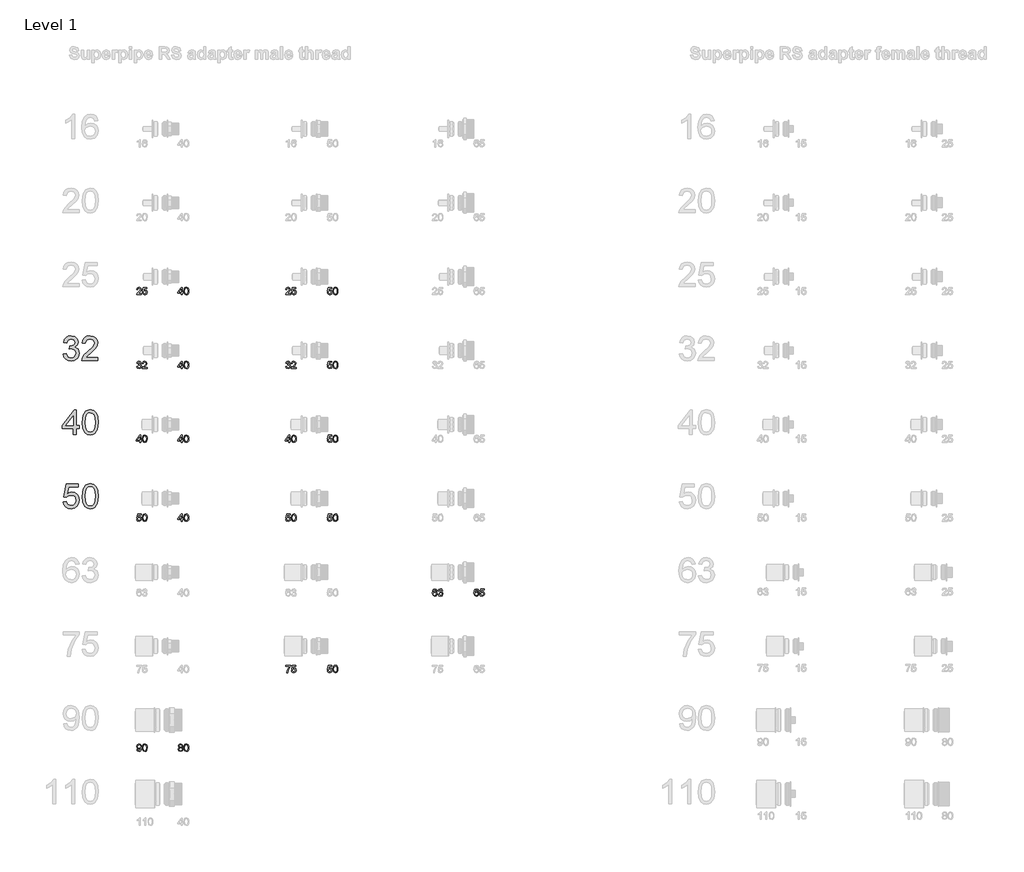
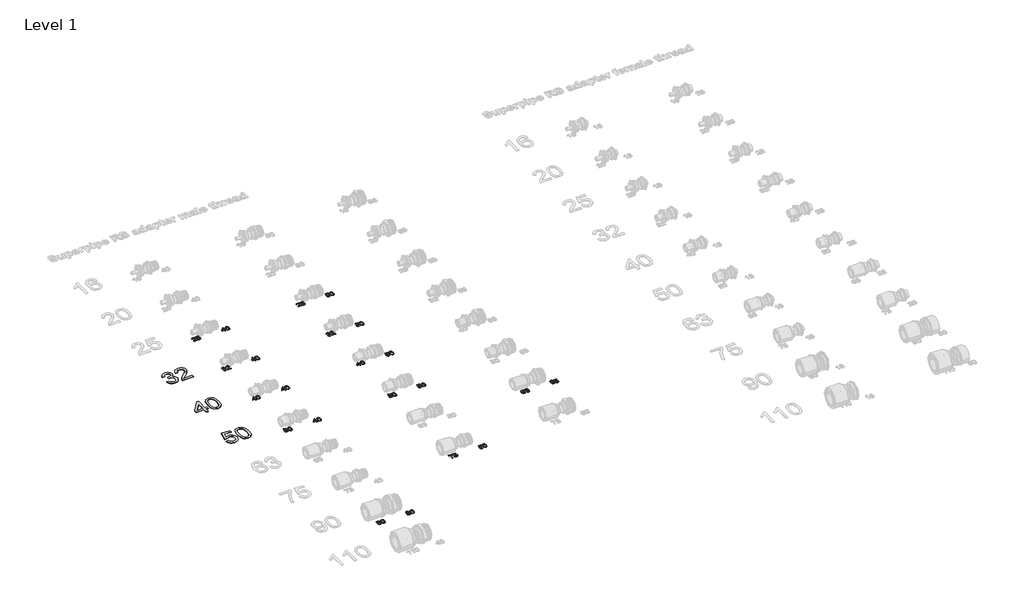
# One storey, part 34 of 58: 25 proxies.
"""IFC4 building model written with IfcOpenShell, lengths in millimetres."""

from ifc_helpers import new_model, si_unit, frame, origin, place, context, project, spatial, polyline, outline, extrude, element, save

model = new_model("IFC4")

# Units and contexts
model_context = context("Model", 3, world=origin())
ifc_project = project(units=[si_unit("LENGTHUNIT", "METRE", prefix="MILLI")], contexts=[model_context])

# Site, building, storey
site = spatial("IfcSite", under=ifc_project)
building = spatial("IfcBuilding", under=site)
storey = spatial("IfcBuildingStorey", under=building, Name="Level 1", Elevation=27.3876384)

# Proxies
placement = place(None, origin())
element("IfcBuildingElementProxy", 1, Name="100mm Arial", ObjectType="100mm Arial", at=placement, inside=storey, context=model_context, shape_type="SweptSolid", body=[
    extrude(outline(polyline([(28784.4814773, 17732.8797554), (28797.0385161, 17734.4493852), (28803.9669603, 17721.2301588), (28816.9286693, 17717.1834569), (28825.537108, 17718.5752771), (28832.1835093, 17722.7507378), (28837.8488921, 17736.5340498), (28832.2325603, 17749.5202843), (28817.9587389, 17754.6583695), (28809.1540964, 17753.2849434), (28810.552048, 17765.8419821), (28812.5631363, 17765.6948293), (28826.8124322, 17769.3000729), (28831.55811, 17773.8740723), (28833.1400025, 17780.3855837), (28828.5537403, 17790.2080329), (28816.7324655, 17794.0953193), (28804.764038, 17790.1712447), (28798.6081459, 17778.3990209), (28786.0511071, 17779.9686507), (28789.7483212, 17791.2442339), (28796.3272775, 17799.6626002), (28805.3281237, 17804.9049186), (28816.2910072, 17806.6523581), (28831.4354826, 17803.2065301), (28842.0304841, 17793.788751), (28845.6970413, 17781.1213477), (28842.2144251, 17769.5453275), (28831.9137292, 17761.2311944), (28845.5989394, 17752.6472812), (28850.4059308, 17736.3133206), (28848.0024351, 17724.0751129), (28840.791948, 17713.8479935), (28829.9087723, 17706.931812), (28816.4872109, 17704.6264181), (28804.347105, 17706.5945868), (28794.4633421, 17712.4990928), (28787.5900802, 17721.5305958), (28784.4814773, 17732.8797554)])), frame((0.0, 0.0, 27.3876384), z_axis=(0.0, 0.0, 1.0), x_axis=(1.0, 0.0, 0.0)), (0.0, 0.0, 1.0), 2.0),
    extrude(outline(polyline([(28925.7481635, 17718.7530867), (28925.7481635, 17706.196048), (28859.8237099, 17706.196048), (28861.1726106, 17714.8535376), (28868.8000306, 17728.1831285), (28884.5208545, 17742.7389928), (28906.2013668, 17763.6592156), (28911.6214948, 17777.8839861), (28906.5079351, 17789.3986925), (28893.1538187, 17794.0953193), (28879.2356165, 17789.5090571), (28873.9503785, 17776.829391), (28861.3933398, 17778.3990209), (28864.4375633, 17790.5452581), (28871.0195853, 17799.4173455), (28880.7960493, 17804.843605), (28893.4235988, 17806.6523581), (28906.1431188, 17804.6412699), (28915.9011887, 17798.6080052), (28922.1091974, 17789.5948963), (28924.1785336, 17778.6442756), (28921.9467162, 17766.7371616), (28914.5277626, 17754.4253775), (28896.538333, 17737.2207629), (28882.0928334, 17725.1419707), (28876.4274506, 17718.7530867), (28925.7481635, 17718.7530867)])), frame((0.0, 0.0, 27.3876384), z_axis=(0.0, 0.0, 1.0), x_axis=(1.0, 0.0, 0.0)), (0.0, 0.0, 1.0), 2.0),
])
element("IfcBuildingElementProxy", 2, Name="100mm Arial", ObjectType="100mm Arial", at=placement, inside=storey, context=model_context, shape_type="SweptSolid", body=[
    extrude(outline(polyline([(28825.2918533, 17406.196048), (28825.2918533, 17429.7404957), (28779.7725878, 17429.7404957), (28779.7725878, 17442.2975344), (28828.431113, 17505.0827283), (28837.8488921, 17505.0827283), (28837.8488921, 17442.2975344), (28850.4059308, 17442.2975344), (28850.4059308, 17429.7404957), (28837.8488921, 17429.7404957), (28837.8488921, 17406.196048), (28825.2918533, 17406.196048)]), holes=[polyline([(28825.2918533, 17442.2975344), (28825.2918533, 17481.0968222), (28795.2236316, 17442.2975344), (28825.2918533, 17442.2975344)])]), frame((0.0, 0.0, 27.3876384), z_axis=(0.0, 0.0, 1.0), x_axis=(1.0, 0.0, 0.0)), (0.0, 0.0, 1.0), 2.0),
    extrude(outline(polyline([(28861.3933398, 17455.6148627), (28865.0844224, 17484.5181247), (28876.0473059, 17501.1831791), (28894.3555665, 17506.6523581), (28909.0217954, 17503.4149966), (28919.150813, 17494.0830566), (28925.0369249, 17479.220624), (28927.3177933, 17455.6148627), (28923.6634988, 17426.8342279), (28912.7374036, 17410.1323853), (28904.5060439, 17406.0029099), (28894.3555665, 17404.6264181), (28881.3080184, 17407.0176511), (28871.39973, 17414.19135), (28863.8949373, 17431.1813668), (28861.3933398, 17455.6148627)]), holes=[polyline([(28873.9503785, 17455.6393881), (28875.4219065, 17435.8871907), (28879.8364905, 17424.4552577), (28886.4093154, 17419.0014071), (28894.3555665, 17417.1834569), (28902.3018176, 17419.0075385), (28908.8746426, 17424.4797831), (28913.2892265, 17435.9178475), (28914.7607545, 17455.6393881), (28913.3382775, 17474.9470615), (28909.0708463, 17486.4678993), (28902.5102841, 17492.1884643), (28894.2084137, 17494.0953193), (28886.3480018, 17492.4153249), (28880.0326942, 17487.3753416), (28875.4709574, 17475.1371339), (28873.9503785, 17455.6393881)])]), frame((0.0, 0.0, 27.3876384), z_axis=(0.0, 0.0, 1.0), x_axis=(1.0, 0.0, 0.0)), (0.0, 0.0, 1.0), 2.0),
])
element("IfcBuildingElementProxy", 3, Name="100mm Arial", ObjectType="100mm Arial", at=placement, inside=storey, context=model_context, shape_type="SweptSolid", body=[
    extrude(outline(polyline([(28784.4814773, 17132.8797554), (28797.0385161, 17134.4493852), (28803.3660864, 17121.5122017), (28816.4872109, 17117.1834569), (28825.488057, 17118.6887074), (28832.2325603, 17123.2044589), (28836.4448091, 17130.2095452), (28837.8488921, 17139.1828002), (28832.5881795, 17154.0942837), (28825.981632, 17158.196168), (28816.6834146, 17159.5634627), (28805.6592175, 17157.3806962), (28798.6081459, 17151.7153135), (28786.0511071, 17153.2849434), (28797.0385161, 17205.0827283), (28845.6970413, 17205.0827283), (28845.6970413, 17192.5256895), (28807.1920591, 17192.5256895), (28801.820982, 17164.8609635), (28810.7911713, 17170.305617), (28820.1905563, 17172.1205015), (28831.9229263, 17169.87029), (28841.6626021, 17163.1196554), (28848.2200987, 17152.8312222), (28850.4059308, 17139.9676151), (28848.4377622, 17127.4105764), (28842.5332561, 17116.6684221), (28831.2270162, 17107.6369191), (28816.43816, 17104.6264181), (28804.1049161, 17106.5608643), (28794.2794011, 17112.3642028), (28787.5440949, 17121.3619832), (28784.4814773, 17132.8797554)])), frame((0.0, 0.0, 27.3876384), z_axis=(0.0, 0.0, 1.0), x_axis=(1.0, 0.0, 0.0)), (0.0, 0.0, 1.0), 2.0),
    extrude(outline(polyline([(28861.3933398, 17155.6148627), (28865.0844224, 17184.5181247), (28876.0473059, 17201.1831791), (28894.3555665, 17206.6523581), (28909.0217954, 17203.4149966), (28919.150813, 17194.0830566), (28925.0369249, 17179.220624), (28927.3177933, 17155.6148627), (28923.6634988, 17126.8342279), (28912.7374036, 17110.1323853), (28904.5060439, 17106.0029099), (28894.3555665, 17104.6264181), (28881.3080184, 17107.0176511), (28871.39973, 17114.19135), (28863.8949373, 17131.1813668), (28861.3933398, 17155.6148627)]), holes=[polyline([(28873.9503785, 17155.6393881), (28875.4219065, 17135.8871907), (28879.8364905, 17124.4552577), (28886.4093154, 17119.0014071), (28894.3555665, 17117.1834569), (28902.3018176, 17119.0075385), (28908.8746426, 17124.4797831), (28913.2892265, 17135.9178475), (28914.7607545, 17155.6393881), (28913.3382775, 17174.9470615), (28909.0708463, 17186.4678993), (28902.5102841, 17192.1884643), (28894.2084137, 17194.0953193), (28886.3480018, 17192.4153249), (28880.0326942, 17187.3753416), (28875.4709574, 17175.1371339), (28873.9503785, 17155.6393881)])]), frame((0.0, 0.0, 27.3876384), z_axis=(0.0, 0.0, 1.0), x_axis=(1.0, 0.0, 0.0)), (0.0, 0.0, 1.0), 2.0),
])
element("IfcBuildingElementProxy", 4, Name="30mm Arial", ObjectType="30mm Arial", at=placement, inside=storey, context=model_context, shape_type="SweptSolid", body=[
    extrude(outline(polyline([(29101.8418771, 17977.3459656), (29101.8418771, 17973.5788539), (29082.0645411, 17973.5788539), (29082.4692113, 17976.1761008), (29084.7574373, 17980.1749781), (29089.4736845, 17984.5417374), (29095.9778381, 17990.8178042), (29097.6038765, 17995.0852354), (29096.0698086, 17998.5396473), (29092.0635737, 17999.9486353), (29087.8881131, 17998.5727567), (29086.3025417, 17994.7688569), (29082.53543, 17995.2397458), (29085.4233037, 18001.5452432), (29092.1445077, 18003.715747), (29098.8877847, 18001.3024411), (29101.3709882, 17995.3133222), (29100.7014429, 17991.741188), (29098.4757569, 17988.0476528), (29093.078928, 17982.8862684), (29088.7452781, 17979.2626308), (29087.0456633, 17977.3459656), (29101.8418771, 17977.3459656)])), frame((0.0, 0.0, 27.3876384), z_axis=(0.0, 0.0, 1.0), x_axis=(1.0, 0.0, 0.0)), (0.0, 0.0, 1.0), 2.0),
    extrude(outline(polyline([(29105.6089888, 17981.5839661), (29109.3761004, 17982.0548551), (29111.2743715, 17978.1737001), (29115.2107088, 17976.8750766), (29119.9343137, 17978.6813772), (29121.6192132, 17983.4748796), (29120.0409994, 17987.9483247), (29115.26957, 17989.5890784), (29111.9623108, 17988.9342484), (29109.8469893, 17987.2346336), (29106.0798777, 17987.7055225), (29109.3761004, 18003.244858), (29123.973658, 18003.244858), (29123.973658, 17999.4777464), (29112.4221633, 17999.4777464), (29110.8108402, 17991.1783286), (29116.3217125, 17993.35619), (29122.7633262, 17990.6559361), (29125.3863248, 17983.7103241), (29123.0245224, 17976.7205662), (29115.1959936, 17973.107965), (29108.5483659, 17975.4293004), (29105.6089888, 17981.5839661)])), frame((0.0, 0.0, 27.3876384), z_axis=(0.0, 0.0, 1.0), x_axis=(1.0, 0.0, 0.0)), (0.0, 0.0, 1.0), 2.0),
])
element("IfcBuildingElementProxy", 5, Name="30mm Arial", ObjectType="30mm Arial", at=placement, inside=storey, context=model_context, shape_type="SweptSolid", body=[
    extrude(outline(polyline([(29263.5285428, 17973.5788539), (29263.5285428, 17980.6421882), (29249.8727632, 17980.6421882), (29249.8727632, 17984.4092999), (29264.4703207, 18003.244858), (29267.2956545, 18003.244858), (29267.2956545, 17984.4092999), (29271.0627661, 17984.4092999), (29271.0627661, 17980.6421882), (29267.2956545, 17980.6421882), (29267.2956545, 17973.5788539), (29263.5285428, 17973.5788539)]), holes=[polyline([(29263.5285428, 17984.4092999), (29263.5285428, 17996.0490862), (29254.5080763, 17984.4092999), (29263.5285428, 17984.4092999)])]), frame((0.0, 0.0, 27.3876384), z_axis=(0.0, 0.0, 1.0), x_axis=(1.0, 0.0, 0.0)), (0.0, 0.0, 1.0), 2.0),
    extrude(outline(polyline([(29274.3589888, 17988.4044983), (29275.4663136, 17997.075477), (29278.7551786, 18002.0749933), (29284.2476568, 18003.715747), (29288.6475255, 18002.7445385), (29291.6862307, 17999.9449565), (29293.4520643, 17995.4862267), (29294.1363248, 17988.4044983), (29293.0400365, 17979.7703079), (29289.7622079, 17974.7597551), (29284.2476568, 17973.107965), (29277.3609058, 17975.9774445), (29274.3589888, 17988.4044983)]), holes=[polyline([(29278.1261004, 17988.411856), (29279.891934, 17979.0566168), (29284.2476568, 17976.8750766), (29288.6033796, 17979.0639745), (29290.3692132, 17988.411856), (29288.6622407, 17997.6604093), (29284.203511, 17999.9486353), (29279.9507951, 17997.932642), (29278.1261004, 17988.411856)])]), frame((0.0, 0.0, 27.3876384), z_axis=(0.0, 0.0, 1.0), x_axis=(1.0, 0.0, 0.0)), (0.0, 0.0, 1.0), 2.0),
])
element("IfcBuildingElementProxy", 6, Name="30mm Arial", ObjectType="30mm Arial", at=placement, inside=storey, context=model_context, shape_type="SweptSolid", body=[
    extrude(outline(polyline([(29082.53543, 17681.5839661), (29086.3025417, 17682.0548551), (29088.3810749, 17678.0890872), (29092.2695876, 17676.8750766), (29096.8460396, 17678.5452609), (29098.5456545, 17682.6802545), (29096.8607549, 17686.5761248), (29092.5786085, 17688.1175504), (29089.9372158, 17687.7055225), (29090.3566012, 17691.4726342), (29095.2347165, 17692.5100614), (29097.1329876, 17695.8357146), (29095.7571089, 17698.7824494), (29092.2107265, 17699.9486353), (29088.6201982, 17698.771413), (29086.7734306, 17695.2397458), (29083.006319, 17695.7106348), (29086.0891701, 17701.6188196), (29092.078289, 17703.715747), (29096.6216316, 17702.6819986), (29099.8001321, 17699.8566648), (29100.9000992, 17696.0564438), (29099.8553144, 17692.5836378), (29096.7651056, 17690.0893979), (29100.8706687, 17687.5142239), (29102.3127661, 17682.6140357), (29099.4285712, 17675.8744376), (29092.1371501, 17673.107965), (29085.5299895, 17675.4697674), (29082.53543, 17681.5839661)])), frame((0.0, 0.0, 27.3876384), z_axis=(0.0, 0.0, 1.0), x_axis=(1.0, 0.0, 0.0)), (0.0, 0.0, 1.0), 2.0),
    extrude(outline(polyline([(29124.9154359, 17677.3459656), (29124.9154359, 17673.5788539), (29105.1380998, 17673.5788539), (29105.54277, 17676.1761008), (29107.830996, 17680.1749781), (29112.5472432, 17684.5417374), (29119.0513969, 17690.8178042), (29120.6774353, 17695.0852354), (29119.1433674, 17698.5396473), (29115.1371324, 17699.9486353), (29110.9616718, 17698.5727567), (29109.3761004, 17694.7688569), (29105.6089888, 17695.2397458), (29108.4968624, 17701.5452432), (29115.2180665, 17703.715747), (29121.9613434, 17701.3024411), (29124.4445469, 17695.3133222), (29123.7750017, 17691.741188), (29121.5493156, 17688.0476528), (29116.1524867, 17682.8862684), (29111.8188368, 17679.2626308), (29110.119222, 17677.3459656), (29124.9154359, 17677.3459656)])), frame((0.0, 0.0, 27.3876384), z_axis=(0.0, 0.0, 1.0), x_axis=(1.0, 0.0, 0.0)), (0.0, 0.0, 1.0), 2.0),
])
element("IfcBuildingElementProxy", 7, Name="30mm Arial", ObjectType="30mm Arial", at=placement, inside=storey, context=model_context, shape_type="SweptSolid", body=[
    extrude(outline(polyline([(29263.5285428, 17673.5788539), (29263.5285428, 17680.6421882), (29249.8727632, 17680.6421882), (29249.8727632, 17684.4092999), (29264.4703207, 17703.244858), (29267.2956545, 17703.244858), (29267.2956545, 17684.4092999), (29271.0627661, 17684.4092999), (29271.0627661, 17680.6421882), (29267.2956545, 17680.6421882), (29267.2956545, 17673.5788539), (29263.5285428, 17673.5788539)]), holes=[polyline([(29263.5285428, 17684.4092999), (29263.5285428, 17696.0490862), (29254.5080763, 17684.4092999), (29263.5285428, 17684.4092999)])]), frame((0.0, 0.0, 27.3876384), z_axis=(0.0, 0.0, 1.0), x_axis=(1.0, 0.0, 0.0)), (0.0, 0.0, 1.0), 2.0),
    extrude(outline(polyline([(29274.3589888, 17688.4044983), (29275.4663136, 17697.075477), (29278.7551786, 17702.0749933), (29284.2476568, 17703.715747), (29288.6475255, 17702.7445385), (29291.6862307, 17699.9449565), (29293.4520643, 17695.4862267), (29294.1363248, 17688.4044983), (29293.0400365, 17679.7703079), (29289.7622079, 17674.7597551), (29284.2476568, 17673.107965), (29277.3609058, 17675.9774445), (29274.3589888, 17688.4044983)]), holes=[polyline([(29278.1261004, 17688.411856), (29279.891934, 17679.0566168), (29284.2476568, 17676.8750766), (29288.6033796, 17679.0639745), (29290.3692132, 17688.411856), (29288.6622407, 17697.6604093), (29284.203511, 17699.9486353), (29279.9507951, 17697.932642), (29278.1261004, 17688.411856)])]), frame((0.0, 0.0, 27.3876384), z_axis=(0.0, 0.0, 1.0), x_axis=(1.0, 0.0, 0.0)), (0.0, 0.0, 1.0), 2.0),
])
element("IfcBuildingElementProxy", 8, Name="30mm Arial", ObjectType="30mm Arial", at=placement, inside=storey, context=model_context, shape_type="SweptSolid", body=[
    extrude(outline(polyline([(29094.7785428, 17373.5788539), (29094.7785428, 17380.6421882), (29081.1227632, 17380.6421882), (29081.1227632, 17384.4092999), (29095.7203207, 17403.244858), (29098.5456545, 17403.244858), (29098.5456545, 17384.4092999), (29102.3127661, 17384.4092999), (29102.3127661, 17380.6421882), (29098.5456545, 17380.6421882), (29098.5456545, 17373.5788539), (29094.7785428, 17373.5788539)]), holes=[polyline([(29094.7785428, 17384.4092999), (29094.7785428, 17396.0490862), (29085.7580763, 17384.4092999), (29094.7785428, 17384.4092999)])]), frame((0.0, 0.0, 27.3876384), z_axis=(0.0, 0.0, 1.0), x_axis=(1.0, 0.0, 0.0)), (0.0, 0.0, 1.0), 2.0),
    extrude(outline(polyline([(29105.6089888, 17388.4044983), (29106.7163136, 17397.075477), (29110.0051786, 17402.0749933), (29115.4976568, 17403.715747), (29119.8975255, 17402.7445385), (29122.9362307, 17399.9449565), (29124.7020643, 17395.4862267), (29125.3863248, 17388.4044983), (29124.2900365, 17379.7703079), (29121.0122079, 17374.7597551), (29115.4976568, 17373.107965), (29108.6109058, 17375.9774445), (29105.6089888, 17388.4044983)]), holes=[polyline([(29109.3761004, 17388.411856), (29111.141934, 17379.0566168), (29115.4976568, 17376.8750766), (29119.8533796, 17379.0639745), (29121.6192132, 17388.411856), (29119.9122407, 17397.6604093), (29115.453511, 17399.9486353), (29111.2007951, 17397.932642), (29109.3761004, 17388.411856)])]), frame((0.0, 0.0, 27.3876384), z_axis=(0.0, 0.0, 1.0), x_axis=(1.0, 0.0, 0.0)), (0.0, 0.0, 1.0), 2.0),
])
element("IfcBuildingElementProxy", 9, Name="30mm Arial", ObjectType="30mm Arial", at=placement, inside=storey, context=model_context, shape_type="SweptSolid", body=[
    extrude(outline(polyline([(29263.5285428, 17373.5788539), (29263.5285428, 17380.6421882), (29249.8727632, 17380.6421882), (29249.8727632, 17384.4092999), (29264.4703207, 17403.244858), (29267.2956545, 17403.244858), (29267.2956545, 17384.4092999), (29271.0627661, 17384.4092999), (29271.0627661, 17380.6421882), (29267.2956545, 17380.6421882), (29267.2956545, 17373.5788539), (29263.5285428, 17373.5788539)]), holes=[polyline([(29263.5285428, 17384.4092999), (29263.5285428, 17396.0490862), (29254.5080763, 17384.4092999), (29263.5285428, 17384.4092999)])]), frame((0.0, 0.0, 27.3876384), z_axis=(0.0, 0.0, 1.0), x_axis=(1.0, 0.0, 0.0)), (0.0, 0.0, 1.0), 2.0),
    extrude(outline(polyline([(29274.3589888, 17388.4044983), (29275.4663136, 17397.075477), (29278.7551786, 17402.0749933), (29284.2476568, 17403.715747), (29288.6475255, 17402.7445385), (29291.6862307, 17399.9449565), (29293.4520643, 17395.4862267), (29294.1363248, 17388.4044983), (29293.0400365, 17379.7703079), (29289.7622079, 17374.7597551), (29284.2476568, 17373.107965), (29277.3609058, 17375.9774445), (29274.3589888, 17388.4044983)]), holes=[polyline([(29278.1261004, 17388.411856), (29279.891934, 17379.0566168), (29284.2476568, 17376.8750766), (29288.6033796, 17379.0639745), (29290.3692132, 17388.411856), (29288.6622407, 17397.6604093), (29284.203511, 17399.9486353), (29279.9507951, 17397.932642), (29278.1261004, 17388.411856)])]), frame((0.0, 0.0, 27.3876384), z_axis=(0.0, 0.0, 1.0), x_axis=(1.0, 0.0, 0.0)), (0.0, 0.0, 1.0), 2.0),
])
element("IfcBuildingElementProxy", 10, Name="30mm Arial", ObjectType="30mm Arial", at=placement, inside=storey, context=model_context, shape_type="SweptSolid", body=[
    extrude(outline(polyline([(29082.53543, 17061.5839661), (29086.3025417, 17062.0548551), (29088.2008128, 17058.1737001), (29092.1371501, 17056.8750766), (29096.8607549, 17058.6813772), (29098.5456545, 17063.4748796), (29096.9674407, 17067.9483247), (29092.1960112, 17069.5890784), (29088.8887521, 17068.9342484), (29086.7734306, 17067.2346336), (29083.006319, 17067.7055225), (29086.3025417, 17083.244858), (29100.9000992, 17083.244858), (29100.9000992, 17079.4777464), (29089.3486046, 17079.4777464), (29087.7372814, 17071.1783286), (29093.2481537, 17073.35619), (29099.6897675, 17070.6559361), (29102.3127661, 17063.7103241), (29099.9509637, 17056.7205662), (29092.1224348, 17053.107965), (29085.4748072, 17055.4293004), (29082.53543, 17061.5839661)])), frame((0.0, 0.0, 27.3876384), z_axis=(0.0, 0.0, 1.0), x_axis=(1.0, 0.0, 0.0)), (0.0, 0.0, 1.0), 2.0),
    extrude(outline(polyline([(29105.6089888, 17068.4044983), (29106.7163136, 17077.075477), (29110.0051786, 17082.0749933), (29115.4976568, 17083.715747), (29119.8975255, 17082.7445385), (29122.9362307, 17079.9449565), (29124.7020643, 17075.4862267), (29125.3863248, 17068.4044983), (29124.2900365, 17059.7703079), (29121.0122079, 17054.7597551), (29115.4976568, 17053.107965), (29108.6109058, 17055.9774445), (29105.6089888, 17068.4044983)]), holes=[polyline([(29109.3761004, 17068.411856), (29111.141934, 17059.0566168), (29115.4976568, 17056.8750766), (29119.8533796, 17059.0639745), (29121.6192132, 17068.411856), (29119.9122407, 17077.6604093), (29115.453511, 17079.9486353), (29111.2007951, 17077.932642), (29109.3761004, 17068.411856)])]), frame((0.0, 0.0, 27.3876384), z_axis=(0.0, 0.0, 1.0), x_axis=(1.0, 0.0, 0.0)), (0.0, 0.0, 1.0), 2.0),
])
element("IfcBuildingElementProxy", 11, Name="30mm Arial", ObjectType="30mm Arial", at=placement, inside=storey, context=model_context, shape_type="SweptSolid", body=[
    extrude(outline(polyline([(29263.5285428, 17053.5788539), (29263.5285428, 17060.6421882), (29249.8727632, 17060.6421882), (29249.8727632, 17064.4092999), (29264.4703207, 17083.244858), (29267.2956545, 17083.244858), (29267.2956545, 17064.4092999), (29271.0627661, 17064.4092999), (29271.0627661, 17060.6421882), (29267.2956545, 17060.6421882), (29267.2956545, 17053.5788539), (29263.5285428, 17053.5788539)]), holes=[polyline([(29263.5285428, 17064.4092999), (29263.5285428, 17076.0490862), (29254.5080763, 17064.4092999), (29263.5285428, 17064.4092999)])]), frame((0.0, 0.0, 27.3876384), z_axis=(0.0, 0.0, 1.0), x_axis=(1.0, 0.0, 0.0)), (0.0, 0.0, 1.0), 2.0),
    extrude(outline(polyline([(29274.3589888, 17068.4044983), (29275.4663136, 17077.075477), (29278.7551786, 17082.0749933), (29284.2476568, 17083.715747), (29288.6475255, 17082.7445385), (29291.6862307, 17079.9449565), (29293.4520643, 17075.4862267), (29294.1363248, 17068.4044983), (29293.0400365, 17059.7703079), (29289.7622079, 17054.7597551), (29284.2476568, 17053.107965), (29277.3609058, 17055.9774445), (29274.3589888, 17068.4044983)]), holes=[polyline([(29278.1261004, 17068.411856), (29279.891934, 17059.0566168), (29284.2476568, 17056.8750766), (29288.6033796, 17059.0639745), (29290.3692132, 17068.411856), (29288.6622407, 17077.6604093), (29284.203511, 17079.9486353), (29279.9507951, 17077.932642), (29278.1261004, 17068.411856)])]), frame((0.0, 0.0, 27.3876384), z_axis=(0.0, 0.0, 1.0), x_axis=(1.0, 0.0, 0.0)), (0.0, 0.0, 1.0), 2.0),
])
element("IfcBuildingElementProxy", 12, Name="30mm Arial", ObjectType="30mm Arial", at=placement, inside=storey, context=model_context, shape_type="SweptSolid", body=[
    extrude(outline(polyline([(29706.8418771, 17977.3459656), (29706.8418771, 17973.5788539), (29687.0645411, 17973.5788539), (29687.4692113, 17976.1761008), (29689.7574373, 17980.1749781), (29694.4736845, 17984.5417374), (29700.9778381, 17990.8178042), (29702.6038765, 17995.0852354), (29701.0698086, 17998.5396473), (29697.0635737, 17999.9486353), (29692.8881131, 17998.5727567), (29691.3025417, 17994.7688569), (29687.53543, 17995.2397458), (29690.4233037, 18001.5452432), (29697.1445077, 18003.715747), (29703.8877847, 18001.3024411), (29706.3709882, 17995.3133222), (29705.7014429, 17991.741188), (29703.4757569, 17988.0476528), (29698.078928, 17982.8862684), (29693.7452781, 17979.2626308), (29692.0456633, 17977.3459656), (29706.8418771, 17977.3459656)])), frame((0.0, 0.0, 27.3876384), z_axis=(0.0, 0.0, 1.0), x_axis=(1.0, 0.0, 0.0)), (0.0, 0.0, 1.0), 2.0),
    extrude(outline(polyline([(29710.6089888, 17981.5839661), (29714.3761004, 17982.0548551), (29716.2743715, 17978.1737001), (29720.2107088, 17976.8750766), (29724.9343137, 17978.6813772), (29726.6192132, 17983.4748796), (29725.0409994, 17987.9483247), (29720.26957, 17989.5890784), (29716.9623108, 17988.9342484), (29714.8469893, 17987.2346336), (29711.0798777, 17987.7055225), (29714.3761004, 18003.244858), (29728.973658, 18003.244858), (29728.973658, 17999.4777464), (29717.4221633, 17999.4777464), (29715.8108402, 17991.1783286), (29721.3217125, 17993.35619), (29727.7633262, 17990.6559361), (29730.3863248, 17983.7103241), (29728.0245224, 17976.7205662), (29720.1959936, 17973.107965), (29713.5483659, 17975.4293004), (29710.6089888, 17981.5839661)])), frame((0.0, 0.0, 27.3876384), z_axis=(0.0, 0.0, 1.0), x_axis=(1.0, 0.0, 0.0)), (0.0, 0.0, 1.0), 2.0),
])
element("IfcBuildingElementProxy", 13, Name="30mm Arial", ObjectType="30mm Arial", at=placement, inside=storey, context=model_context, shape_type="SweptSolid", body=[
    extrude(outline(polyline([(29856.28543, 17981.5839661), (29860.0525417, 17982.0548551), (29861.9508128, 17978.1737001), (29865.8871501, 17976.8750766), (29870.6107549, 17978.6813772), (29872.2956545, 17983.4748796), (29870.7174407, 17987.9483247), (29865.9460112, 17989.5890784), (29862.6387521, 17988.9342484), (29860.5234306, 17987.2346336), (29856.756319, 17987.7055225), (29860.0525417, 18003.244858), (29874.6500992, 18003.244858), (29874.6500992, 17999.4777464), (29863.0986046, 17999.4777464), (29861.4872814, 17991.1783286), (29866.9981537, 17993.35619), (29873.4397675, 17990.6559361), (29876.0627661, 17983.7103241), (29873.7009637, 17976.7205662), (29865.8724348, 17973.107965), (29859.2248072, 17975.4293004), (29856.28543, 17981.5839661)])), frame((0.0, 0.0, 27.3876384), z_axis=(0.0, 0.0, 1.0), x_axis=(1.0, 0.0, 0.0)), (0.0, 0.0, 1.0), 2.0),
    extrude(outline(polyline([(29879.3589888, 17988.4044983), (29880.4663136, 17997.075477), (29883.7551786, 18002.0749933), (29889.2476568, 18003.715747), (29893.6475255, 18002.7445385), (29896.6862307, 17999.9449565), (29898.4520643, 17995.4862267), (29899.1363248, 17988.4044983), (29898.0400365, 17979.7703079), (29894.7622079, 17974.7597551), (29889.2476568, 17973.107965), (29882.3609058, 17975.9774445), (29879.3589888, 17988.4044983)]), holes=[polyline([(29883.1261004, 17988.411856), (29884.891934, 17979.0566168), (29889.2476568, 17976.8750766), (29893.6033796, 17979.0639745), (29895.3692132, 17988.411856), (29893.6622407, 17997.6604093), (29889.203511, 17999.9486353), (29884.9507951, 17997.932642), (29883.1261004, 17988.411856)])]), frame((0.0, 0.0, 27.3876384), z_axis=(0.0, 0.0, 1.0), x_axis=(1.0, 0.0, 0.0)), (0.0, 0.0, 1.0), 2.0),
])
element("IfcBuildingElementProxy", 14, Name="30mm Arial", ObjectType="30mm Arial", at=placement, inside=storey, context=model_context, shape_type="SweptSolid", body=[
    extrude(outline(polyline([(29687.53543, 17681.5839661), (29691.3025417, 17682.0548551), (29693.3810749, 17678.0890872), (29697.2695876, 17676.8750766), (29701.8460396, 17678.5452609), (29703.5456545, 17682.6802545), (29701.8607549, 17686.5761248), (29697.5786085, 17688.1175504), (29694.9372158, 17687.7055225), (29695.3566012, 17691.4726342), (29700.2347165, 17692.5100614), (29702.1329876, 17695.8357146), (29700.7571089, 17698.7824494), (29697.2107265, 17699.9486353), (29693.6201982, 17698.771413), (29691.7734306, 17695.2397458), (29688.006319, 17695.7106348), (29691.0891701, 17701.6188196), (29697.078289, 17703.715747), (29701.6216316, 17702.6819986), (29704.8001321, 17699.8566648), (29705.9000992, 17696.0564438), (29704.8553144, 17692.5836378), (29701.7651056, 17690.0893979), (29705.8706687, 17687.5142239), (29707.3127661, 17682.6140357), (29704.4285712, 17675.8744376), (29697.1371501, 17673.107965), (29690.5299895, 17675.4697674), (29687.53543, 17681.5839661)])), frame((0.0, 0.0, 27.3876384), z_axis=(0.0, 0.0, 1.0), x_axis=(1.0, 0.0, 0.0)), (0.0, 0.0, 1.0), 2.0),
    extrude(outline(polyline([(29729.9154359, 17677.3459656), (29729.9154359, 17673.5788539), (29710.1380998, 17673.5788539), (29710.54277, 17676.1761008), (29712.830996, 17680.1749781), (29717.5472432, 17684.5417374), (29724.0513969, 17690.8178042), (29725.6774353, 17695.0852354), (29724.1433674, 17698.5396473), (29720.1371324, 17699.9486353), (29715.9616718, 17698.5727567), (29714.3761004, 17694.7688569), (29710.6089888, 17695.2397458), (29713.4968624, 17701.5452432), (29720.2180665, 17703.715747), (29726.9613434, 17701.3024411), (29729.4445469, 17695.3133222), (29728.7750017, 17691.741188), (29726.5493156, 17688.0476528), (29721.1524867, 17682.8862684), (29716.8188368, 17679.2626308), (29715.119222, 17677.3459656), (29729.9154359, 17677.3459656)])), frame((0.0, 0.0, 27.3876384), z_axis=(0.0, 0.0, 1.0), x_axis=(1.0, 0.0, 0.0)), (0.0, 0.0, 1.0), 2.0),
])
element("IfcBuildingElementProxy", 15, Name="30mm Arial", ObjectType="30mm Arial", at=placement, inside=storey, context=model_context, shape_type="SweptSolid", body=[
    extrude(outline(polyline([(29856.28543, 17681.5839661), (29860.0525417, 17682.0548551), (29861.9508128, 17678.1737001), (29865.8871501, 17676.8750766), (29870.6107549, 17678.6813772), (29872.2956545, 17683.4748796), (29870.7174407, 17687.9483247), (29865.9460112, 17689.5890784), (29862.6387521, 17688.9342484), (29860.5234306, 17687.2346336), (29856.756319, 17687.7055225), (29860.0525417, 17703.244858), (29874.6500992, 17703.244858), (29874.6500992, 17699.4777464), (29863.0986046, 17699.4777464), (29861.4872814, 17691.1783286), (29866.9981537, 17693.35619), (29873.4397675, 17690.6559361), (29876.0627661, 17683.7103241), (29873.7009637, 17676.7205662), (29865.8724348, 17673.107965), (29859.2248072, 17675.4293004), (29856.28543, 17681.5839661)])), frame((0.0, 0.0, 27.3876384), z_axis=(0.0, 0.0, 1.0), x_axis=(1.0, 0.0, 0.0)), (0.0, 0.0, 1.0), 2.0),
    extrude(outline(polyline([(29879.3589888, 17688.4044983), (29880.4663136, 17697.075477), (29883.7551786, 17702.0749933), (29889.2476568, 17703.715747), (29893.6475255, 17702.7445385), (29896.6862307, 17699.9449565), (29898.4520643, 17695.4862267), (29899.1363248, 17688.4044983), (29898.0400365, 17679.7703079), (29894.7622079, 17674.7597551), (29889.2476568, 17673.107965), (29882.3609058, 17675.9774445), (29879.3589888, 17688.4044983)]), holes=[polyline([(29883.1261004, 17688.411856), (29884.891934, 17679.0566168), (29889.2476568, 17676.8750766), (29893.6033796, 17679.0639745), (29895.3692132, 17688.411856), (29893.6622407, 17697.6604093), (29889.203511, 17699.9486353), (29884.9507951, 17697.932642), (29883.1261004, 17688.411856)])]), frame((0.0, 0.0, 27.3876384), z_axis=(0.0, 0.0, 1.0), x_axis=(1.0, 0.0, 0.0)), (0.0, 0.0, 1.0), 2.0),
])
element("IfcBuildingElementProxy", 16, Name="30mm Arial", ObjectType="30mm Arial", at=placement, inside=storey, context=model_context, shape_type="SweptSolid", body=[
    extrude(outline(polyline([(29699.7785428, 17373.5788539), (29699.7785428, 17380.6421882), (29686.1227632, 17380.6421882), (29686.1227632, 17384.4092999), (29700.7203207, 17403.244858), (29703.5456545, 17403.244858), (29703.5456545, 17384.4092999), (29707.3127661, 17384.4092999), (29707.3127661, 17380.6421882), (29703.5456545, 17380.6421882), (29703.5456545, 17373.5788539), (29699.7785428, 17373.5788539)]), holes=[polyline([(29699.7785428, 17384.4092999), (29699.7785428, 17396.0490862), (29690.7580763, 17384.4092999), (29699.7785428, 17384.4092999)])]), frame((0.0, 0.0, 27.3876384), z_axis=(0.0, 0.0, 1.0), x_axis=(1.0, 0.0, 0.0)), (0.0, 0.0, 1.0), 2.0),
    extrude(outline(polyline([(29710.6089888, 17388.4044983), (29711.7163136, 17397.075477), (29715.0051786, 17402.0749933), (29720.4976568, 17403.715747), (29724.8975255, 17402.7445385), (29727.9362307, 17399.9449565), (29729.7020643, 17395.4862267), (29730.3863248, 17388.4044983), (29729.2900365, 17379.7703079), (29726.0122079, 17374.7597551), (29720.4976568, 17373.107965), (29713.6109058, 17375.9774445), (29710.6089888, 17388.4044983)]), holes=[polyline([(29714.3761004, 17388.411856), (29716.141934, 17379.0566168), (29720.4976568, 17376.8750766), (29724.8533796, 17379.0639745), (29726.6192132, 17388.411856), (29724.9122407, 17397.6604093), (29720.453511, 17399.9486353), (29716.2007951, 17397.932642), (29714.3761004, 17388.411856)])]), frame((0.0, 0.0, 27.3876384), z_axis=(0.0, 0.0, 1.0), x_axis=(1.0, 0.0, 0.0)), (0.0, 0.0, 1.0), 2.0),
])
element("IfcBuildingElementProxy", 17, Name="30mm Arial", ObjectType="30mm Arial", at=placement, inside=storey, context=model_context, shape_type="SweptSolid", body=[
    extrude(outline(polyline([(29856.28543, 17381.5839661), (29860.0525417, 17382.0548551), (29861.9508128, 17378.1737001), (29865.8871501, 17376.8750766), (29870.6107549, 17378.6813772), (29872.2956545, 17383.4748796), (29870.7174407, 17387.9483247), (29865.9460112, 17389.5890784), (29862.6387521, 17388.9342484), (29860.5234306, 17387.2346336), (29856.756319, 17387.7055225), (29860.0525417, 17403.244858), (29874.6500992, 17403.244858), (29874.6500992, 17399.4777464), (29863.0986046, 17399.4777464), (29861.4872814, 17391.1783286), (29866.9981537, 17393.35619), (29873.4397675, 17390.6559361), (29876.0627661, 17383.7103241), (29873.7009637, 17376.7205662), (29865.8724348, 17373.107965), (29859.2248072, 17375.4293004), (29856.28543, 17381.5839661)])), frame((0.0, 0.0, 27.3876384), z_axis=(0.0, 0.0, 1.0), x_axis=(1.0, 0.0, 0.0)), (0.0, 0.0, 1.0), 2.0),
    extrude(outline(polyline([(29879.3589888, 17388.4044983), (29880.4663136, 17397.075477), (29883.7551786, 17402.0749933), (29889.2476568, 17403.715747), (29893.6475255, 17402.7445385), (29896.6862307, 17399.9449565), (29898.4520643, 17395.4862267), (29899.1363248, 17388.4044983), (29898.0400365, 17379.7703079), (29894.7622079, 17374.7597551), (29889.2476568, 17373.107965), (29882.3609058, 17375.9774445), (29879.3589888, 17388.4044983)]), holes=[polyline([(29883.1261004, 17388.411856), (29884.891934, 17379.0566168), (29889.2476568, 17376.8750766), (29893.6033796, 17379.0639745), (29895.3692132, 17388.411856), (29893.6622407, 17397.6604093), (29889.203511, 17399.9486353), (29884.9507951, 17397.932642), (29883.1261004, 17388.411856)])]), frame((0.0, 0.0, 27.3876384), z_axis=(0.0, 0.0, 1.0), x_axis=(1.0, 0.0, 0.0)), (0.0, 0.0, 1.0), 2.0),
])
element("IfcBuildingElementProxy", 18, Name="30mm Arial", ObjectType="30mm Arial", at=placement, inside=storey, context=model_context, shape_type="SweptSolid", body=[
    extrude(outline(polyline([(29687.53543, 17061.5839661), (29691.3025417, 17062.0548551), (29693.2008128, 17058.1737001), (29697.1371501, 17056.8750766), (29701.8607549, 17058.6813772), (29703.5456545, 17063.4748796), (29701.9674407, 17067.9483247), (29697.1960112, 17069.5890784), (29693.8887521, 17068.9342484), (29691.7734306, 17067.2346336), (29688.006319, 17067.7055225), (29691.3025417, 17083.244858), (29705.9000992, 17083.244858), (29705.9000992, 17079.4777464), (29694.3486046, 17079.4777464), (29692.7372814, 17071.1783286), (29698.2481537, 17073.35619), (29704.6897675, 17070.6559361), (29707.3127661, 17063.7103241), (29704.9509637, 17056.7205662), (29697.1224348, 17053.107965), (29690.4748072, 17055.4293004), (29687.53543, 17061.5839661)])), frame((0.0, 0.0, 27.3876384), z_axis=(0.0, 0.0, 1.0), x_axis=(1.0, 0.0, 0.0)), (0.0, 0.0, 1.0), 2.0),
    extrude(outline(polyline([(29710.6089888, 17068.4044983), (29711.7163136, 17077.075477), (29715.0051786, 17082.0749933), (29720.4976568, 17083.715747), (29724.8975255, 17082.7445385), (29727.9362307, 17079.9449565), (29729.7020643, 17075.4862267), (29730.3863248, 17068.4044983), (29729.2900365, 17059.7703079), (29726.0122079, 17054.7597551), (29720.4976568, 17053.107965), (29713.6109058, 17055.9774445), (29710.6089888, 17068.4044983)]), holes=[polyline([(29714.3761004, 17068.411856), (29716.141934, 17059.0566168), (29720.4976568, 17056.8750766), (29724.8533796, 17059.0639745), (29726.6192132, 17068.411856), (29724.9122407, 17077.6604093), (29720.453511, 17079.9486353), (29716.2007951, 17077.932642), (29714.3761004, 17068.411856)])]), frame((0.0, 0.0, 27.3876384), z_axis=(0.0, 0.0, 1.0), x_axis=(1.0, 0.0, 0.0)), (0.0, 0.0, 1.0), 2.0),
])
element("IfcBuildingElementProxy", 19, Name="30mm Arial", ObjectType="30mm Arial", at=placement, inside=storey, context=model_context, shape_type="SweptSolid", body=[
    extrude(outline(polyline([(29856.28543, 17061.5839661), (29860.0525417, 17062.0548551), (29861.9508128, 17058.1737001), (29865.8871501, 17056.8750766), (29870.6107549, 17058.6813772), (29872.2956545, 17063.4748796), (29870.7174407, 17067.9483247), (29865.9460112, 17069.5890784), (29862.6387521, 17068.9342484), (29860.5234306, 17067.2346336), (29856.756319, 17067.7055225), (29860.0525417, 17083.244858), (29874.6500992, 17083.244858), (29874.6500992, 17079.4777464), (29863.0986046, 17079.4777464), (29861.4872814, 17071.1783286), (29866.9981537, 17073.35619), (29873.4397675, 17070.6559361), (29876.0627661, 17063.7103241), (29873.7009637, 17056.7205662), (29865.8724348, 17053.107965), (29859.2248072, 17055.4293004), (29856.28543, 17061.5839661)])), frame((0.0, 0.0, 27.3876384), z_axis=(0.0, 0.0, 1.0), x_axis=(1.0, 0.0, 0.0)), (0.0, 0.0, 1.0), 2.0),
    extrude(outline(polyline([(29879.3589888, 17068.4044983), (29880.4663136, 17077.075477), (29883.7551786, 17082.0749933), (29889.2476568, 17083.715747), (29893.6475255, 17082.7445385), (29896.6862307, 17079.9449565), (29898.4520643, 17075.4862267), (29899.1363248, 17068.4044983), (29898.0400365, 17059.7703079), (29894.7622079, 17054.7597551), (29889.2476568, 17053.107965), (29882.3609058, 17055.9774445), (29879.3589888, 17068.4044983)]), holes=[polyline([(29883.1261004, 17068.411856), (29884.891934, 17059.0566168), (29889.2476568, 17056.8750766), (29893.6033796, 17059.0639745), (29895.3692132, 17068.411856), (29893.6622407, 17077.6604093), (29889.203511, 17079.9486353), (29884.9507951, 17077.932642), (29883.1261004, 17068.411856)])]), frame((0.0, 0.0, 27.3876384), z_axis=(0.0, 0.0, 1.0), x_axis=(1.0, 0.0, 0.0)), (0.0, 0.0, 1.0), 2.0),
])
element("IfcBuildingElementProxy", 20, Name="30mm Arial", ObjectType="30mm Arial", at=placement, inside=storey, context=model_context, shape_type="SweptSolid", body=[
    extrude(outline(polyline([(29687.53543, 16465.3277464), (29687.53543, 16469.094858), (29707.3127661, 16469.094858), (29707.3127661, 16466.0487951), (29701.7025657, 16457.9443547), (29697.4093828, 16447.6179071), (29696.0114312, 16439.4288539), (29692.2443196, 16439.4288539), (29693.7415993, 16447.926928), (29697.8508412, 16457.5323269), (29703.5456545, 16465.3277464), (29687.53543, 16465.3277464)])), frame((0.0, 0.0, 27.3876384), z_axis=(0.0, 0.0, 1.0), x_axis=(1.0, 0.0, 0.0)), (0.0, 0.0, 1.0), 2.0),
    extrude(outline(polyline([(29710.6089888, 16447.4339661), (29714.3761004, 16447.9048551), (29716.2743715, 16444.0237001), (29720.2107088, 16442.7250766), (29724.9343137, 16444.5313772), (29726.6192132, 16449.3248796), (29725.0409994, 16453.7983247), (29720.26957, 16455.4390784), (29716.9623108, 16454.7842484), (29714.8469893, 16453.0846336), (29711.0798777, 16453.5555225), (29714.3761004, 16469.094858), (29728.973658, 16469.094858), (29728.973658, 16465.3277464), (29717.4221633, 16465.3277464), (29715.8108402, 16457.0283286), (29721.3217125, 16459.20619), (29727.7633262, 16456.5059361), (29730.3863248, 16449.5603241), (29728.0245224, 16442.5705662), (29720.1959936, 16438.957965), (29713.5483659, 16441.2793004), (29710.6089888, 16447.4339661)])), frame((0.0, 0.0, 27.3876384), z_axis=(0.0, 0.0, 1.0), x_axis=(1.0, 0.0, 0.0)), (0.0, 0.0, 1.0), 2.0),
])
element("IfcBuildingElementProxy", 21, Name="30mm Arial", ObjectType="30mm Arial", at=placement, inside=storey, context=model_context, shape_type="SweptSolid", body=[
    extrude(outline(polyline([(29856.28543, 16447.4339661), (29860.0525417, 16447.9048551), (29861.9508128, 16444.0237001), (29865.8871501, 16442.7250766), (29870.6107549, 16444.5313772), (29872.2956545, 16449.3248796), (29870.7174407, 16453.7983247), (29865.9460112, 16455.4390784), (29862.6387521, 16454.7842484), (29860.5234306, 16453.0846336), (29856.756319, 16453.5555225), (29860.0525417, 16469.094858), (29874.6500992, 16469.094858), (29874.6500992, 16465.3277464), (29863.0986046, 16465.3277464), (29861.4872814, 16457.0283286), (29866.9981537, 16459.20619), (29873.4397675, 16456.5059361), (29876.0627661, 16449.5603241), (29873.7009637, 16442.5705662), (29865.8724348, 16438.957965), (29859.2248072, 16441.2793004), (29856.28543, 16447.4339661)])), frame((0.0, 0.0, 27.3876384), z_axis=(0.0, 0.0, 1.0), x_axis=(1.0, 0.0, 0.0)), (0.0, 0.0, 1.0), 2.0),
    extrude(outline(polyline([(29879.3589888, 16454.2544983), (29880.4663136, 16462.925477), (29883.7551786, 16467.9249933), (29889.2476568, 16469.565747), (29893.6475255, 16468.5945385), (29896.6862307, 16465.7949565), (29898.4520643, 16461.3362267), (29899.1363248, 16454.2544983), (29898.0400365, 16445.6203079), (29894.7622079, 16440.6097551), (29889.2476568, 16438.957965), (29882.3609058, 16441.8274445), (29879.3589888, 16454.2544983)]), holes=[polyline([(29883.1261004, 16454.261856), (29884.891934, 16444.9066168), (29889.2476568, 16442.7250766), (29893.6033796, 16444.9139745), (29895.3692132, 16454.261856), (29893.6622407, 16463.5104093), (29889.203511, 16465.7986353), (29884.9507951, 16463.782642), (29883.1261004, 16454.261856)])]), frame((0.0, 0.0, 27.3876384), z_axis=(0.0, 0.0, 1.0), x_axis=(1.0, 0.0, 0.0)), (0.0, 0.0, 1.0), 2.0),
])
element("IfcBuildingElementProxy", 22, Name="30mm Arial", ObjectType="30mm Arial", at=placement, inside=storey, context=model_context, shape_type="SweptSolid", body=[
    extrude(outline(polyline([(30301.8418771, 16771.7106348), (30298.0747655, 16771.2397458), (30296.6473834, 16774.381458), (30292.8729141, 16775.9486353), (30289.4736845, 16775.036288), (30286.9021893, 16771.6113066), (30285.8316527, 16764.8974602), (30289.1536271, 16767.9030561), (30293.2702266, 16768.885301), (30299.6713734, 16766.1997625), (30302.3127661, 16759.261508), (30301.0693249, 16754.0633355), (30297.6480224, 16750.3845155), (30292.711046, 16749.107965), (30285.0333488, 16752.4924793), (30282.0645411, 16763.6466614), (30285.3607637, 16776.2797291), (30293.1083586, 16779.715747), (30299.0606892, 16777.589389), (30301.8418771, 16771.7106348)]), holes=[polyline([(30285.8316527, 16759.3203692), (30286.703533, 16756.0572559), (30289.0211896, 16753.6880958), (30292.4167404, 16752.8750766), (30296.8570761, 16754.5599761), (30298.5456545, 16759.1364282), (30296.879149, 16763.5179027), (30292.26223, 16765.1181894), (30287.7041721, 16763.5179027), (30285.8316527, 16759.3203692)])]), frame((0.0, 0.0, 27.3876384), z_axis=(0.0, 0.0, 1.0), x_axis=(1.0, 0.0, 0.0)), (0.0, 0.0, 1.0), 2.0),
    extrude(outline(polyline([(30305.6089888, 16757.5839661), (30309.3761004, 16758.0548551), (30311.4546337, 16754.0890872), (30315.3431464, 16752.8750766), (30319.9195984, 16754.5452609), (30321.6192132, 16758.6802545), (30319.9343137, 16762.5761248), (30315.6521672, 16764.1175504), (30313.0107745, 16763.7055225), (30313.43016, 16767.4726342), (30318.3082752, 16768.5100614), (30320.2065463, 16771.8357146), (30318.8306677, 16774.7824494), (30315.2842852, 16775.9486353), (30311.693757, 16774.771413), (30309.8469893, 16771.2397458), (30306.0798777, 16771.7106348), (30309.1627288, 16777.6188196), (30315.1518477, 16779.715747), (30319.6951904, 16778.6819986), (30322.8736908, 16775.8566648), (30323.973658, 16772.0564438), (30322.9288731, 16768.5836378), (30319.8386643, 16766.0893979), (30323.9442274, 16763.5142239), (30325.3863248, 16758.6140357), (30322.50213, 16751.8744376), (30315.2107088, 16749.107965), (30308.6035482, 16751.4697674), (30305.6089888, 16757.5839661)])), frame((0.0, 0.0, 27.3876384), z_axis=(0.0, 0.0, 1.0), x_axis=(1.0, 0.0, 0.0)), (0.0, 0.0, 1.0), 2.0),
])
element("IfcBuildingElementProxy", 23, Name="30mm Arial", ObjectType="30mm Arial", at=placement, inside=storey, context=model_context, shape_type="SweptSolid", body=[
    extrude(outline(polyline([(30470.5918771, 16771.7106348), (30466.8247655, 16771.2397458), (30465.3973834, 16774.381458), (30461.6229141, 16775.9486353), (30458.2236845, 16775.036288), (30455.6521893, 16771.6113066), (30454.5816527, 16764.8974602), (30457.9036271, 16767.9030561), (30462.0202266, 16768.885301), (30468.4213734, 16766.1997625), (30471.0627661, 16759.261508), (30469.8193249, 16754.0633355), (30466.3980224, 16750.3845155), (30461.461046, 16749.107965), (30453.7833488, 16752.4924793), (30450.8145411, 16763.6466614), (30454.1107637, 16776.2797291), (30461.8583586, 16779.715747), (30467.8106892, 16777.589389), (30470.5918771, 16771.7106348)]), holes=[polyline([(30454.5816527, 16759.3203692), (30455.453533, 16756.0572559), (30457.7711896, 16753.6880958), (30461.1667404, 16752.8750766), (30465.6070761, 16754.5599761), (30467.2956545, 16759.1364282), (30465.629149, 16763.5179027), (30461.01223, 16765.1181894), (30456.4541721, 16763.5179027), (30454.5816527, 16759.3203692)])]), frame((0.0, 0.0, 27.3876384), z_axis=(0.0, 0.0, 1.0), x_axis=(1.0, 0.0, 0.0)), (0.0, 0.0, 1.0), 2.0),
    extrude(outline(polyline([(30474.3589888, 16757.5839661), (30478.1261004, 16758.0548551), (30480.0243715, 16754.1737001), (30483.9607088, 16752.8750766), (30488.6843137, 16754.6813772), (30490.3692132, 16759.4748796), (30488.7909994, 16763.9483247), (30484.01957, 16765.5890784), (30480.7123108, 16764.9342484), (30478.5969893, 16763.2346336), (30474.8298777, 16763.7055225), (30478.1261004, 16779.244858), (30492.723658, 16779.244858), (30492.723658, 16775.4777464), (30481.1721633, 16775.4777464), (30479.5608402, 16767.1783286), (30485.0717125, 16769.35619), (30491.5133262, 16766.6559361), (30494.1363248, 16759.7103241), (30491.7745224, 16752.7205662), (30483.9459936, 16749.107965), (30477.2983659, 16751.4293004), (30474.3589888, 16757.5839661)])), frame((0.0, 0.0, 27.3876384), z_axis=(0.0, 0.0, 1.0), x_axis=(1.0, 0.0, 0.0)), (0.0, 0.0, 1.0), 2.0),
])
element("IfcBuildingElementProxy", 24, Name="30mm Arial", ObjectType="30mm Arial", at=placement, inside=storey, context=model_context, shape_type="SweptSolid", body=[
    extrude(outline(polyline([(29083.006319, 16126.9630772), (29086.7734306, 16127.4339661), (29088.4656878, 16123.8397591), (29091.6736188, 16122.7250766), (29094.7233605, 16123.4424465), (29096.7908573, 16125.3591117), (29098.023262, 16128.6332615), (29098.5677274, 16133.0036996), (29095.5327009, 16130.8846993), (29091.4013861, 16129.7884109), (29085.1069252, 16132.4665918), (29082.53543, 16139.5225685), (29085.232005, 16146.806632), (29091.9899973, 16149.565747), (29097.3573956, 16147.991212), (29101.0509308, 16143.5030517), (29102.3127661, 16135.0711964), (29101.0546097, 16125.9219711), (29097.3132498, 16120.7385138), (29091.4970354, 16118.957965), (29085.7065728, 16121.0585712), (29083.006319, 16126.9630772)]), holes=[polyline([(29098.5456545, 16139.6108602), (29096.919616, 16144.1284511), (29092.6006814, 16145.7986353), (29088.0683752, 16143.9996924), (29086.3025417, 16139.3386275), (29087.9727259, 16135.1631669), (29092.4976745, 16133.5555225), (29096.8423608, 16135.1631669), (29098.5456545, 16139.6108602)])]), frame((0.0, 0.0, 27.3876384), z_axis=(0.0, 0.0, 1.0), x_axis=(1.0, 0.0, 0.0)), (0.0, 0.0, 1.0), 2.0),
    extrude(outline(polyline([(29105.6089888, 16134.2544983), (29106.7163136, 16142.925477), (29110.0051786, 16147.9249933), (29115.4976568, 16149.565747), (29119.8975255, 16148.5945385), (29122.9362307, 16145.7949565), (29124.7020643, 16141.3362267), (29125.3863248, 16134.2544983), (29124.2900365, 16125.6203079), (29121.0122079, 16120.6097551), (29115.4976568, 16118.957965), (29108.6109058, 16121.8274445), (29105.6089888, 16134.2544983)]), holes=[polyline([(29109.3761004, 16134.261856), (29111.141934, 16124.9066168), (29115.4976568, 16122.7250766), (29119.8533796, 16124.9139745), (29121.6192132, 16134.261856), (29119.9122407, 16143.5104093), (29115.453511, 16145.7986353), (29111.2007951, 16143.782642), (29109.3761004, 16134.261856)])]), frame((0.0, 0.0, 27.3876384), z_axis=(0.0, 0.0, 1.0), x_axis=(1.0, 0.0, 0.0)), (0.0, 0.0, 1.0), 2.0),
])
element("IfcBuildingElementProxy", 25, Name="30mm Arial", ObjectType="30mm Arial", at=placement, inside=storey, context=model_context, shape_type="SweptSolid", body=[
    extrude(outline(polyline([(29256.7742294, 16136.0276896), (29253.3418904, 16138.367419), (29252.2272079, 16142.0094508), (29254.6552291, 16147.3878856), (29261.1225946, 16149.565747), (29267.6488212, 16147.3363821), (29270.1209882, 16141.9064438), (29269.021021, 16138.3563826), (29265.6843313, 16136.0276896), (29269.6905662, 16133.0735971), (29271.0627661, 16128.1991607), (29268.3404393, 16121.6214306), (29261.1740981, 16118.957965), (29254.0077568, 16121.6324671), (29251.28543, 16128.3021677), (29252.7128122, 16133.2906475), (29256.7742294, 16136.0276896)]), holes=[polyline([(29255.0525417, 16128.4346052), (29255.6816199, 16125.598235), (29257.9073059, 16123.4755559), (29261.2035286, 16122.7250766), (29265.691689, 16124.3032904), (29267.2956545, 16128.3168829), (29265.6401855, 16132.4077307), (29261.0784487, 16134.0264115), (29256.6454707, 16132.4298036), (29255.0525417, 16128.4346052)]), polyline([(29255.9943196, 16141.8990862), (29257.3297312, 16138.941315), (29261.2182439, 16137.7935231), (29265.0295014, 16138.9339573), (29266.3538765, 16141.7298605), (29264.9853555, 16144.6250918), (29261.1740981, 16145.7986353), (29257.3518041, 16144.6508435), (29255.9943196, 16141.8990862)])]), frame((0.0, 0.0, 27.3876384), z_axis=(0.0, 0.0, 1.0), x_axis=(1.0, 0.0, 0.0)), (0.0, 0.0, 1.0), 2.0),
    extrude(outline(polyline([(29274.3589888, 16134.2544983), (29275.4663136, 16142.925477), (29278.7551786, 16147.9249933), (29284.2476568, 16149.565747), (29288.6475255, 16148.5945385), (29291.6862307, 16145.7949565), (29293.4520643, 16141.3362267), (29294.1363248, 16134.2544983), (29293.0400365, 16125.6203079), (29289.7622079, 16120.6097551), (29284.2476568, 16118.957965), (29277.3609058, 16121.8274445), (29274.3589888, 16134.2544983)]), holes=[polyline([(29278.1261004, 16134.261856), (29279.891934, 16124.9066168), (29284.2476568, 16122.7250766), (29288.6033796, 16124.9139745), (29290.3692132, 16134.261856), (29288.6622407, 16143.5104093), (29284.203511, 16145.7986353), (29279.9507951, 16143.782642), (29278.1261004, 16134.261856)])]), frame((0.0, 0.0, 27.3876384), z_axis=(0.0, 0.0, 1.0), x_axis=(1.0, 0.0, 0.0)), (0.0, 0.0, 1.0), 2.0),
])

save(model, "model.ifc")
